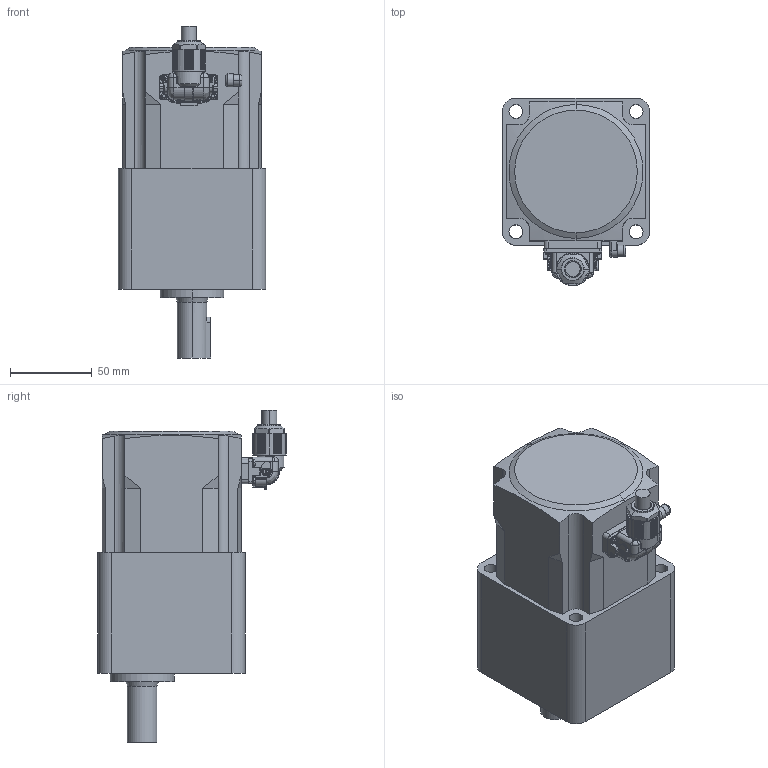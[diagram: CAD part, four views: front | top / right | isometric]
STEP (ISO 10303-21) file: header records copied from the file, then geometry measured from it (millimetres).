
FILE_DESCRIPTION (( 'STEP AP203' ), '1' );
FILE_NAME ('B1630_B.step', '2025-07-07T05:50:50', ( '' ), ( '' ), 'SwSTEP 2.0', 'SolidWorks 2023', '' );
FILE_SCHEMA (( 'CONFIG_CONTROL_DESIGN' ));
Length unit declared in the file: millimetre
Products named in the file (1): B1630_B
Bounding box: 90 x 115 x 203.05 mm (x, y, z)
Volume: 1079322.9 mm3; surface area: 81179.8 mm2
Topology: 2 solids, 6 shells, 1086 faces, 2835 edges, 1749 vertices
Faces by surface type: plane 458, cylinder 414, bspline 148, cone 42, torus 22, sphere 2
Entity records: 37053 total; most frequent: CARTESIAN_POINT 11907, ORIENTED_EDGE 5606, DIRECTION 4808, EDGE_CURVE 2803, VERTEX_POINT 1749, AXIS2_PLACEMENT_3D 1659, LINE 1490, VECTOR 1490
